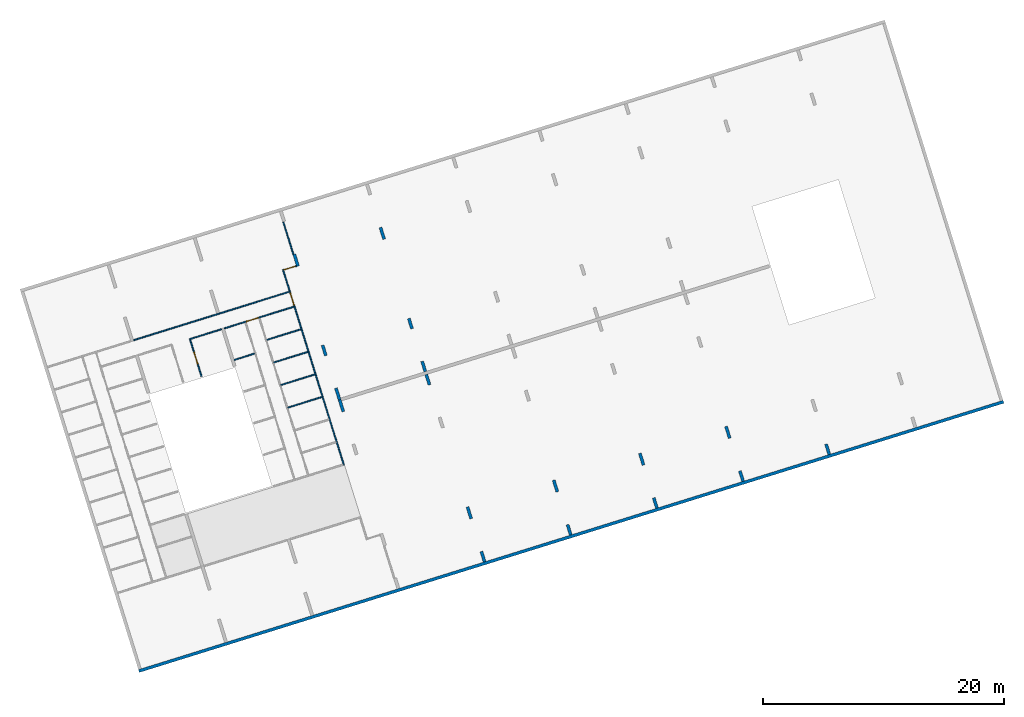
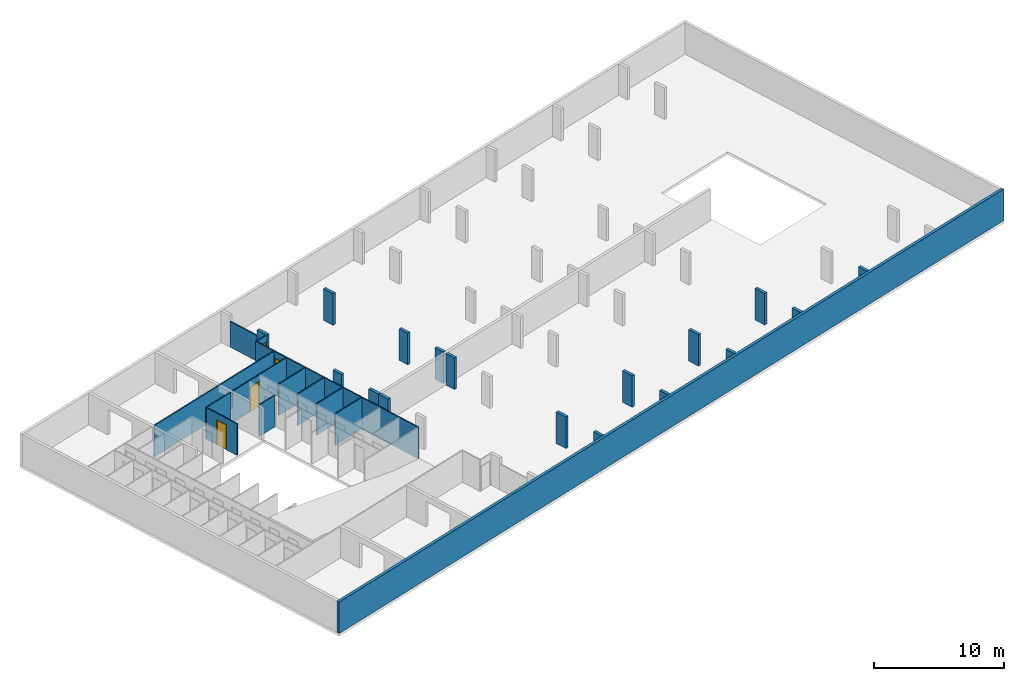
# One storey, part 2 of 7: 30 walls, 4 doors, 6 openings.
"""IFC4 building model written with IfcOpenShell, lengths in metres."""

from ifc_helpers import new_model, entity, si_unit, converted_unit, direction, frame, origin, place, context, subcontext, project, spatial, indexed_curve, outline, extrude, polygons, source, transform, mapped, material, constituent, constituent_set, type_object, type_shapes, element, fill, save


model = new_model("IFC4")

# Units and contexts
model_context = context("Model", 3, precision=1e-05, world=origin(), true_north=direction((6.12323399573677e-17, 1.0)))
body_context = subcontext(model_context, "Body", "Model", "MODEL_VIEW")
ifc_project = project(units=[si_unit("LENGTHUNIT", "METRE"), si_unit("AREAUNIT", "SQUARE_METRE"), si_unit("VOLUMEUNIT", "CUBIC_METRE"), converted_unit("PLANEANGLEUNIT", "DEGREE", entity("IfcPlaneAngleMeasure", 0.0174532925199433), si_unit("PLANEANGLEUNIT", "RADIAN"), dimensions=[0, 0, 0, 0, 0, 0, 0])], contexts=[model_context])

# Site, building, storey
site_placement = place(None, frame((13.1347999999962, 11.9886000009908, 0.0), z_axis=(0.0, 0.0, 1.0), x_axis=(0.954770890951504, 0.297342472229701, 0.0)))
site = spatial("IfcSite", under=ifc_project, at=site_placement, Name="Schiehaven", CompositionType="ELEMENT")
building_placement = place(site_placement, origin())
building = spatial("IfcBuilding", under=site, at=building_placement, Name="VORM huis", CompositionType="ELEMENT")
storey_placement = place(building_placement, frame((0.0, 0.0, -3.2)))
storey = spatial("IfcBuildingStorey", under=building, at=storey_placement, Name="-1 kelder", CompositionType="ELEMENT", Elevation=-3.2)

# Walls
ifc_material_1 = material(Name="beton_gewapend_ihw", Category="Miscellaneous")
wall_type_1 = type_object("IfcWallType", Name="Basic Wall:28_WA_skelet_keerwand 250mm_gen", PredefinedType="STANDARD")
wall_1_placement = place(storey_placement, frame((80.1250000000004, 0.499999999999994, 0.0), z_axis=(0.0, 0.0, 1.0), x_axis=(-1.0, 0.0, 0.0)))
element("IfcWall", 1, at=wall_1_placement, inside=storey, type_object=wall_type_1, material=ifc_material_1, Name="Constructieve keerwand", ObjectType="Wand", PredefinedType="NOTDEFINED", context=body_context, shape_type="SweptSolid", body=[
    extrude(outline(indexed_curve([(75.2500000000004, 0.125), (0.0, 0.125), (0.0, -0.125), (75.2500000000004, -0.125), (75.2500000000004, 0.125)], self_intersect=False)), origin(), (0.0, 0.0, 1.0), 2.95),
])
wall_type_2 = type_object("IfcWallType", Name="Basic Wall:28_WA_skelet_wand 250mm_gen", PredefinedType="STANDARD")
wall_2_placement = place(storey_placement, frame((35.0, 16.0249999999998, 0.0), z_axis=(0.0, 0.0, 1.0), x_axis=(0.0, 1.0, 0.0)))
element("IfcWall", 2, at=wall_2_placement, inside=storey, type_object=wall_type_2, material=ifc_material_1, Name="Constructieve wand", ObjectType="Wand", PredefinedType="NOTDEFINED", context=body_context, shape_type="SweptSolid", body=[
    extrude(outline(indexed_curve([(0.900000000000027, 0.125000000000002), (0.0, 0.125000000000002), (0.0, -0.125000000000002), (0.900000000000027, -0.125000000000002), (0.900000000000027, 0.125000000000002)], self_intersect=False)), origin(), (0.0, 0.0, 1.0), 2.95),
])
wall_3_placement = place(storey_placement, frame((35.0, 4.37499999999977, 0.0), z_axis=(0.0, 0.0, 1.0), x_axis=(0.0, 1.0, 0.0)))
element("IfcWall", 3, at=wall_3_placement, inside=storey, type_object=wall_type_2, material=ifc_material_1, Name="Constructieve wand", ObjectType="Wand", PredefinedType="NOTDEFINED", context=body_context, shape_type="SweptSolid", body=[
    extrude(outline(indexed_curve([(1.02499999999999, 0.125000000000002), (0.0, 0.125000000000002), (0.0, -0.125000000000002), (1.02499999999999, -0.125000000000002), (1.02499999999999, 0.125000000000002)], self_intersect=False)), origin(), (0.0, 0.0, 1.0), 2.95),
])
for number, where, z_axis, x_axis, name in (
    (4, (42.5, 4.37499999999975, 0.0), (0.0, 0.0, 1.0), (0.0, 1.0, 0.0), "Constructieve wand"),
    (5, (50.0, 4.37499999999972, 0.0), (0.0, 0.0, 1.0), (0.0, 1.0, 0.0), "Constructieve wand"),
):
    element("IfcWall", number, at=place(storey_placement, frame(where, z_axis=z_axis, x_axis=x_axis)), inside=storey, type_object=wall_type_2, material=ifc_material_1, Name=name, ObjectType="Wand", PredefinedType="NOTDEFINED", context=body_context, shape_type="SweptSolid", body=[
        extrude(outline(indexed_curve([(1.02499999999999, 0.124999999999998), (0.0, 0.124999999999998), (0.0, -0.124999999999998), (1.02499999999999, -0.124999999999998), (1.02499999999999, 0.124999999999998)], self_intersect=False)), origin(), (0.0, 0.0, 1.0), 2.95),
    ])
wall_4_placement = place(storey_placement, frame((57.5, 4.3749999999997, 0.0), z_axis=(0.0, 0.0, 1.0), x_axis=(0.0, 1.0, 0.0)))
element("IfcWall", 6, at=wall_4_placement, inside=storey, type_object=wall_type_2, material=ifc_material_1, Name="Constructieve wand", ObjectType="Wand", PredefinedType="NOTDEFINED", context=body_context, shape_type="SweptSolid", body=[
    extrude(outline(indexed_curve([(1.025, 0.124999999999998), (0.0, 0.124999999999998), (0.0, -0.124999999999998), (1.025, -0.124999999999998), (1.025, 0.124999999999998)], self_intersect=False)), origin(), (0.0, 0.0, 1.0), 2.95),
])
wall_5_placement = place(storey_placement, frame((35.0, 1.52499999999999, 0.0), z_axis=(0.0, 0.0, 1.0), x_axis=(0.0, -1.0, 0.0)))
element("IfcWall", 7, at=wall_5_placement, inside=storey, type_object=wall_type_2, material=ifc_material_1, Name="Constructieve wand", ObjectType="Wand", PredefinedType="NOTDEFINED", context=body_context, shape_type="SweptSolid", body=[
    extrude(outline(indexed_curve([(0.9, 0.125000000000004), (2.39074561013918e-16, 0.125000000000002), (-2.39074561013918e-16, -0.125000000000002), (0.9, -0.125), (0.9, 0.125000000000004)], self_intersect=False)), origin(), (0.0, 0.0, 1.0), 2.95),
])
wall_6_placement = place(storey_placement, frame((42.5, 1.52499999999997, 0.0), z_axis=(0.0, 0.0, 1.0), x_axis=(0.0, -1.0, 0.0)))
element("IfcWall", 8, at=wall_6_placement, inside=storey, type_object=wall_type_2, material=ifc_material_1, Name="Constructieve wand", ObjectType="Wand", PredefinedType="NOTDEFINED", context=body_context, shape_type="SweptSolid", body=[
    extrude(outline(indexed_curve([(0.899999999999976, 0.124999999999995), (2.39074561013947e-16, 0.124999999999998), (-2.39074561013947e-16, -0.124999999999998), (0.899999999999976, -0.125), (0.899999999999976, 0.124999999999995)], self_intersect=False)), origin(), (0.0, 0.0, 1.0), 2.95),
])
wall_7_placement = place(storey_placement, frame((50.0, 1.52499999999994, 0.0), z_axis=(0.0, 0.0, 1.0), x_axis=(0.0, -1.0, 0.0)))
element("IfcWall", 9, at=wall_7_placement, inside=storey, type_object=wall_type_2, material=ifc_material_1, Name="Constructieve wand", ObjectType="Wand", PredefinedType="NOTDEFINED", context=body_context, shape_type="SweptSolid", body=[
    extrude(outline(indexed_curve([(0.899999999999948, 0.124999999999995), (2.39074561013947e-16, 0.124999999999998), (-2.39074561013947e-16, -0.124999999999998), (0.899999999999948, -0.125), (0.899999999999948, 0.124999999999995)], self_intersect=False)), origin(), (0.0, 0.0, 1.0), 2.95),
])
wall_8_placement = place(storey_placement, frame((57.4999999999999, 1.52499999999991, 0.0), z_axis=(0.0, 0.0, 1.0), x_axis=(0.0, -1.0, 0.0)))
element("IfcWall", 10, at=wall_8_placement, inside=storey, type_object=wall_type_2, material=ifc_material_1, Name="Constructieve wand", ObjectType="Wand", PredefinedType="NOTDEFINED", context=body_context, shape_type="SweptSolid", body=[
    extrude(outline(indexed_curve([(0.89999999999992, 0.124999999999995), (2.39074561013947e-16, 0.124999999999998), (-2.39074561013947e-16, -0.124999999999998), (0.89999999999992, -0.125), (0.89999999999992, 0.124999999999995)], self_intersect=False)), origin(), (0.0, 0.0, 1.0), 2.95),
])
wall_9_placement = place(storey_placement, frame((65.0, 1.52499999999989, 0.0), z_axis=(0.0, 0.0, 1.0), x_axis=(0.0, -1.0, 0.0)))
element("IfcWall", 11, at=wall_9_placement, inside=storey, type_object=wall_type_2, material=ifc_material_1, Name="Constructieve wand", ObjectType="Wand", PredefinedType="NOTDEFINED", context=body_context, shape_type="SweptSolid", body=[
    extrude(outline(indexed_curve([(0.899999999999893, 0.124999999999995), (2.39074561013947e-16, 0.124999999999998), (-2.39074561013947e-16, -0.124999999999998), (0.899999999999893, -0.125), (0.899999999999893, 0.124999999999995)], self_intersect=False)), origin(), (0.0, 0.0, 1.0), 2.95),
])
wall_10_placement = place(storey_placement, frame((27.5000000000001, 16.0249999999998, 0.0), z_axis=(0.0, 0.0, 1.0), x_axis=(0.0, 1.0, 0.0)))
element("IfcWall", 12, at=wall_10_placement, inside=storey, type_object=wall_type_2, material=ifc_material_1, Name="Constructieve wand", ObjectType="Wand", PredefinedType="NOTDEFINED", context=body_context, shape_type="SweptSolid", body=[
    extrude(outline(indexed_curve([(1.02500000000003, 0.125000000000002), (0.0, 0.125000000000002), (0.0, -0.125000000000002), (1.02500000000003, -0.125000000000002), (1.02500000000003, 0.125000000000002)], self_intersect=False)), origin(), (0.0, 0.0, 1.0), 2.95),
])
wall_11_placement = place(storey_placement, frame((35.0, 21.8050000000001, 0.0), z_axis=(0.0, 0.0, 1.0), x_axis=(0.0, -1.0, 0.0)))
element("IfcWall", 13, at=wall_11_placement, inside=storey, type_object=wall_type_2, material=ifc_material_1, Name="Constructieve wand", ObjectType="Wand", PredefinedType="NOTDEFINED", context=body_context, shape_type="SweptSolid", body=[
    extrude(outline(indexed_curve([(0.900000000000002, 0.124999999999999), (-8.09239413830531e-16, 0.125000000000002), (8.09239413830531e-16, -0.125000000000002), (0.900000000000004, -0.125000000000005), (0.900000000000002, 0.124999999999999)], self_intersect=False)), origin(), (0.0, 0.0, 1.0), 2.95),
])
wall_12_placement = place(storey_placement, frame((35.0, 18.0750000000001, 0.0), z_axis=(0.0, 0.0, 1.0), x_axis=(0.0, -1.0, 0.0)))
element("IfcWall", 14, at=wall_12_placement, inside=storey, type_object=wall_type_2, material=ifc_material_1, Name="Constructieve wand", ObjectType="Wand", PredefinedType="NOTDEFINED", context=body_context, shape_type="SweptSolid", body=[
    extrude(outline(indexed_curve([(0.900000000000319, 0.124999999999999), (-8.09239413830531e-16, 0.125000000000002), (8.09239413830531e-16, -0.125000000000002), (0.90000000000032, -0.125000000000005), (0.900000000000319, 0.124999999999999)], self_intersect=False)), origin(), (0.0, 0.0, 1.0), 2.95),
])
wall_13_placement = place(storey_placement, frame((35.0, 29.7250000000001, 0.0), z_axis=(0.0, 0.0, 1.0), x_axis=(0.0, -1.0, 0.0)))
element("IfcWall", 15, at=wall_13_placement, inside=storey, type_object=wall_type_2, material=ifc_material_1, Name="Constructieve wand", ObjectType="Wand", PredefinedType="NOTDEFINED", context=body_context, shape_type="SweptSolid", body=[
    extrude(outline(indexed_curve([(1.025, 0.125), (-8.09239413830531e-16, 0.125000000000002), (8.09239413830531e-16, -0.125000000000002), (1.025, -0.125000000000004), (1.025, 0.125)], self_intersect=False)), origin(), (0.0, 0.0, 1.0), 2.95),
])
wall_14_placement = place(storey_placement, frame((27.5000000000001, 21.8050000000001, 0.0), z_axis=(0.0, 0.0, 1.0), x_axis=(0.0, -1.0, 0.0)))
element("IfcWall", 16, at=wall_14_placement, inside=storey, type_object=wall_type_2, material=ifc_material_1, Name="Constructieve wand", ObjectType="Wand", PredefinedType="NOTDEFINED", context=body_context, shape_type="SweptSolid", body=[
    extrude(outline(indexed_curve([(0.899999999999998, 0.124999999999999), (-8.09239413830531e-16, 0.125000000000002), (8.09239413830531e-16, -0.125000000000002), (0.9, -0.125000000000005), (0.899999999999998, 0.124999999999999)], self_intersect=False)), origin(), (0.0, 0.0, 1.0), 2.95),
])
wall_15_placement = place(storey_placement, frame((27.5000000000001, 18.0750000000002, 0.0), z_axis=(0.0, 0.0, 1.0), x_axis=(0.0, -1.0, 0.0)))
element("IfcWall", 17, at=wall_15_placement, inside=storey, type_object=wall_type_2, material=ifc_material_1, Name="Constructieve wand", ObjectType="Wand", PredefinedType="NOTDEFINED", context=body_context, shape_type="SweptSolid", body=[
    extrude(outline(indexed_curve([(1.02500000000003, 0.125), (-8.09239413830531e-16, 0.125000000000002), (8.09239413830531e-16, -0.125000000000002), (1.02500000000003, -0.125000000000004), (1.02500000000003, 0.125)], self_intersect=False)), origin(), (0.0, 0.0, 1.0), 2.95),
])
wall_16_placement = place(storey_placement, frame((27.5000000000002, 29.7250000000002, 0.0), z_axis=(0.0, 0.0, 1.0), x_axis=(0.0, -1.0, 0.0)))
element("IfcWall", 18, at=wall_16_placement, inside=storey, type_object=wall_type_2, material=ifc_material_1, Name="Constructieve wand", ObjectType="Wand", PredefinedType="NOTDEFINED", context=body_context, shape_type="SweptSolid", body=[
    extrude(outline(indexed_curve([(1.025, 0.125), (-8.09239413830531e-16, 0.125000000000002), (8.09239413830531e-16, -0.125000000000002), (1.025, -0.125000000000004), (1.025, 0.125)], self_intersect=False)), origin(), (0.0, 0.0, 1.0), 2.95),
])

# Wall, openings, door
ifc_material_2 = material(Name="ntb_ntb_ntb", Category="Miscellaneous")
wall_type_3 = type_object("IfcWallType", Name="Basic Wall:22_WA_afbouw_binnenwand 100mm_gen", PredefinedType="STANDARD")
wall_17_placement = place(storey_placement, frame((26.2250000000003, 28.8000000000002, 0.0), z_axis=(0.0, 0.0, 1.0), x_axis=(0.0, -1.0, 0.0)))
wall_17 = element("IfcWall", 19, at=wall_17_placement, inside=storey, type_object=wall_type_3, material=ifc_material_2, Name="Binnenwand", ObjectType="Wand", PredefinedType="NOTDEFINED", context=body_context, shape_type="Tessellation", body=[
    polygons([(0.0, -0.0499999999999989, 0.0), (1.87500000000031, -0.05, 0.0), (1.9750000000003, -0.0499999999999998, 0.0), (2.0500000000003, -0.0499999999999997, 0.0), (2.0500000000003, -0.0499999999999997, 2.34999999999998), (3.1000000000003, -0.0499999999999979, 2.34999999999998), (3.1000000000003, -0.0499999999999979, 0.0), (3.1750000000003, -0.0499999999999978, 0.0), (3.2750000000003, -0.0500000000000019, 0.0), (5.139285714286, -0.0499999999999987, 0.0), (5.239285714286, -0.0499999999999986, 0.0), (7.1035714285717, -0.0499999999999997, 0.0), (7.2035714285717, -0.0499999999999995, 0.0), (9.0678571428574, -0.0500000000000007, 0.0), (9.1678571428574, -0.0500000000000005, 0.0), (11.0321428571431, -0.0500000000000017, 0.0), (11.1321428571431, -0.0500000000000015, 0.0), (12.9964285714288, -0.0499999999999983, 0.0), (13.0964285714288, -0.0499999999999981, 0.0), (14.9607142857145, -0.0499999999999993, 0.0), (15.0607142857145, -0.0499999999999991, 0.0), (16.9250000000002, -0.0500000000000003, 0.0), (17.0250000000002, -0.0500000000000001, 0.0), (17.0250000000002, -0.0500000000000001, 2.95), (16.9250000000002, -0.0500000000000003, 2.95), (15.0607142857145, -0.0499999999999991, 2.95), (14.9607142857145, -0.0499999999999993, 2.95), (13.0964285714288, -0.0499999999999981, 2.95), (12.9964285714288, -0.0499999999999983, 2.95), (11.1321428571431, -0.0500000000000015, 2.95), (11.0321428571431, -0.0500000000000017, 2.95), (9.1678571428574, -0.0500000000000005, 2.95), (9.0678571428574, -0.0500000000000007, 2.95), (7.2035714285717, -0.0499999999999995, 2.95), (7.1035714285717, -0.0499999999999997, 2.95), (5.239285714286, -0.0499999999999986, 2.95), (5.139285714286, -0.0499999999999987, 2.95), (3.2750000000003, -0.0500000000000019, 2.95), (3.1750000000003, -0.0499999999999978, 2.95), (1.9750000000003, -0.0499999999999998, 2.95), (1.87500000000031, -0.05, 2.95), (0.0, -0.0499999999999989, 2.95), (2.0500000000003, 0.0499999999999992, 2.34999999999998), (2.0500000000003, 0.0499999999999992, 0.0), (0.0, 0.0500000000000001, 0.0), (0.0, 0.0500000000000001, 2.34999999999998), (0.0, 0.0500000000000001, 2.95), (0.0999999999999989, 0.0500000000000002, 2.95), (17.0250000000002, 0.0500000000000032, 2.95), (17.0250000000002, 0.0500000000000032, 0.0), (3.1000000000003, 0.050000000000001, 0.0), (3.1000000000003, 0.050000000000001, 2.34999999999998)], [[[1, 2, 3, 4, 5, 6, 7, 8, 9, 10, 11, 12, 13, 14, 15, 16, 17, 18, 19, 20, 21, 22, 23, 24, 25, 26, 27, 28, 29, 30, 31, 32, 33, 34, 35, 36, 37, 38, 39, 40, 41, 42]], [[43, 44, 45, 46, 47, 48, 49, 50, 51, 52]], [[45, 44, 4, 3, 2, 1]], [[42, 41, 40, 39, 38, 37, 36, 35, 34, 33, 32, 31, 30, 29, 28, 27, 26, 25, 24, 49, 48, 47]], [[24, 23, 50, 49]], [[7, 6, 52, 51]], [[5, 4, 44, 43]], [[6, 5, 43, 52]], [[1, 42, 47, 46, 45]], [[51, 50, 23, 22, 21, 20, 19, 18, 17, 16, 15, 14, 13, 12, 11, 10, 9, 8, 7]]], closed=True),
])
opening_1_placement = place(wall_17_placement, origin())
element("IfcOpeningElement", 20, at=opening_1_placement, cuts=wall_17, Name="Vluchtdeur", PredefinedType="OPENING", context=body_context, shape_type="SweptSolid", body=[
    extrude(outline(indexed_curve([(-0.0500000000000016, -1.17499999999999), (0.0499999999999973, -1.17499999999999), (0.0499999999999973, 1.17499999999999), (-0.0500000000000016, 1.17499999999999), (-0.0500000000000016, -1.17499999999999)], self_intersect=False)), frame((0.0499999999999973, 0.0500000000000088, 1.17499999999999), z_axis=(0.0, 1.0, 0.0), x_axis=(-1.0, 0.0, 0.0)), (0.0, 0.0, 1.0), 1.05),
])
opening_2_placement = place(wall_17_placement, frame((3.1000000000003, 0.0500000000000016, 0.0)))
opening_2 = element("IfcOpeningElement", 21, at=opening_2_placement, cuts=wall_17, Name="Vluchtdeur", PredefinedType="OPENING", context=body_context, shape_type="SweptSolid", body=[
    extrude(outline(indexed_curve([(2.34999999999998, 0.0), (2.34999999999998, 1.05), (0.0, 1.05), (0.0, 0.0), (2.34999999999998, 0.0)], self_intersect=False)), frame((0.0, 0.0, 0.0), z_axis=(0.0, -1.0, 0.0), x_axis=(0.0, 0.0, 1.0)), (0.0, 0.0, 1.0), 0.1),
])
ifc_material_3 = material(Name="PD_a_binnenwandopeningen", Category="Miscellaneous")
ifc_constituent_1 = constituent(ifc_material_3, Name="PD_a_binnenwandopeningen", Category="Miscellaneous")
ifc_material_4 = material(Name="metaal_aluminium_ntb", Category="Miscellaneous")
ifc_constituent_2 = constituent(ifc_material_4, Name="metaal_aluminium_ntb", Category="Miscellaneous")
ifc_constituent_set_1 = constituent_set(constituents=[ifc_constituent_1, ifc_constituent_2])
door_type = type_object("IfcDoorType", Name="32_DO_binnendeur enkel:binnendeur zelfsluitend 30min", OperationType="NOTDEFINED", PredefinedType="DOOR")
shared_shape_1 = source(origin(), body_context, "Body", "SweptSolid", [
    extrude(outline(indexed_curve([(0.475, -1.16249999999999), (0.525, -1.16249999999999), (0.525, 1.18749999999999), (-0.525, 1.18749999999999), (-0.525, -1.16249999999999), (-0.475, -1.16249999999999), (-0.475, 1.13749999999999), (0.475, 1.13749999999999), (0.475, -1.16249999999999)], self_intersect=False)), frame((0.525000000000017, 0.100000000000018, 1.16249999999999), z_axis=(0.0, -1.0, 0.0), x_axis=(1.0, 0.0, 0.0)), (0.0, 0.0, 1.0), 0.1),
    extrude(outline(indexed_curve([(-0.475, -0.025), (0.475, -0.025), (0.475, 0.025), (-0.475, 0.025), (-0.475, -0.025)], self_intersect=False)), frame((0.525000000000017, 0.0499999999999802, 0.0)), (0.0, 0.0, 1.0), 2.29999999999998),
])
door_1_placement = place(opening_2_placement, frame((0.0, 0.0, 0.0), z_axis=(0.0, 0.0, 1.0), x_axis=(-1.0, 0.0, 0.0)))
door_1 = element("IfcDoor", 22, at=door_1_placement, inside=storey, type_object=door_type, material=ifc_constituent_set_1, Name="Vluchtdeur", ObjectType="Deur", OperationType="NOTDEFINED", OverallHeight=2.34999999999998, OverallWidth=1.05, PredefinedType="DOOR", context=body_context, shape_type="MappedRepresentation", body=[
    mapped(shared_shape_1, transform((0.0, 0.0, 0.0), scale=1.0)),
])
fill(opening_2, door_1)

# Wall
wall_18_placement = place(storey_placement, frame((26.1750000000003, 26.8749999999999, 0.0), z_axis=(0.0, 0.0, 1.0), x_axis=(-1.0, 0.0, 0.0)))
element("IfcWall", 23, at=wall_18_placement, inside=storey, type_object=wall_type_3, material=ifc_material_2, Name="Binnenwand", ObjectType="Wand", PredefinedType="NOTDEFINED", context=body_context, shape_type="SweptSolid", body=[
    extrude(outline(indexed_curve([(13.5500000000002, 0.0500000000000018), (-1.60577808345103e-16, 0.0500000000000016), (1.60577808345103e-16, -0.0500000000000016), (13.5500000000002, -0.0500000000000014), (13.5500000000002, 0.0500000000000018)], self_intersect=False)), origin(), (0.0, 0.0, 1.0), 2.95),
])

# Wall, opening, door
wall_19_placement = place(storey_placement, frame((26.1750000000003, 25.5749999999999, 0.0), z_axis=(0.0, 0.0, 1.0), x_axis=(-1.0, 0.0, 0.0)))
wall_19 = element("IfcWall", 24, at=wall_19_placement, inside=storey, type_object=wall_type_3, material=ifc_material_2, Name="Binnenwand", ObjectType="Wand", PredefinedType="NOTDEFINED", context=body_context, shape_type="Tessellation", body=[
    polygons([(4.1500000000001, -0.0499999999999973, 2.34999999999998), (4.15000000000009, -0.0499999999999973, 0.0), (6.05000000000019, -0.0499999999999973, 0.0), (6.05000000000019, -0.0499999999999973, 2.95), (2.3054590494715e-15, -0.0499999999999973, 2.95), (2.3054590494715e-15, -0.0499999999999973, 0.0), (3.10000000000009, -0.0499999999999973, 0.0), (3.10000000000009, -0.0499999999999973, 2.34999999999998), (6.05000000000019, 0.0500000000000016, 0.0), (4.2750000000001, 0.0500000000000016, 0.0), (4.1750000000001, 0.0500000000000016, 0.0), (4.15000000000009, 0.0500000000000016, 0.0), (4.1500000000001, 0.0500000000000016, 2.34999999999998), (3.10000000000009, 0.0500000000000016, 2.34999999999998), (3.10000000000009, 0.0500000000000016, 0.0), (3.0750000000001, 0.0500000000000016, 0.0), (2.9750000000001, 0.0500000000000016, 0.0), (2.02600946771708e-15, 0.0500000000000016, 0.0), (2.02600946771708e-15, 0.0500000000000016, 2.95), (2.9750000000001, 0.0500000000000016, 2.95), (3.0750000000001, 0.0500000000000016, 2.95), (4.1750000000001, 0.0500000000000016, 2.95), (4.2750000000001, 0.0500000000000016, 2.95), (6.05000000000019, 0.0500000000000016, 2.95)], [[[1, 2, 3, 4, 5, 6, 7, 8]], [[9, 10, 11, 12, 13, 14, 15, 16, 17, 18, 19, 20, 21, 22, 23, 24]], [[7, 6, 18, 17, 16, 15]], [[4, 3, 9, 24]], [[5, 4, 24, 23, 22, 21, 20, 19]], [[6, 5, 19, 18]], [[15, 14, 8, 7]], [[13, 12, 2, 1]], [[14, 13, 1, 8]], [[3, 2, 12, 11, 10, 9]]], closed=True),
])
opening_3_placement = place(wall_19_placement, frame((4.1500000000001, 0.049999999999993, 0.0)))
opening_3 = element("IfcOpeningElement", 25, at=opening_3_placement, cuts=wall_19, Name="Vluchtdeur", PredefinedType="OPENING", context=body_context, shape_type="SweptSolid", body=[
    extrude(outline(indexed_curve([(2.34999999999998, 1.05), (0.0, 1.05), (0.0, 0.0), (2.34999999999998, 0.0), (2.34999999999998, 1.05)], self_intersect=False)), frame((0.0, 0.0, 0.0), z_axis=(0.0, -1.0, 0.0), x_axis=(0.0, 0.0, 1.0)), (0.0, 0.0, 1.0), 0.1),
])
ifc_constituent_3 = constituent(ifc_material_3, Name="PD_a_binnenwandopeningen", Category="Miscellaneous")
ifc_constituent_4 = constituent(ifc_material_4, Name="metaal_aluminium_ntb", Category="Miscellaneous")
ifc_constituent_set_2 = constituent_set(constituents=[ifc_constituent_3, ifc_constituent_4])
shared_shape_2 = source(origin(), body_context, "Body", "SweptSolid", [
    extrude(outline(indexed_curve([(-1.16249999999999, -0.525000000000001), (1.18749999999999, -0.525), (1.18749999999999, 0.525), (-1.16249999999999, 0.525), (-1.16249999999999, 0.475), (1.13749999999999, 0.475), (1.13749999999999, -0.475), (-1.16249999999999, -0.475), (-1.16249999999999, -0.525000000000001)], self_intersect=False)), frame((0.525000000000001, 0.0, 1.16249999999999), z_axis=(0.0, 1.0, 0.0), x_axis=(0.0, 0.0, 1.0)), (0.0, 0.0, 1.0), 0.1),
    extrude(outline(indexed_curve([(-0.025, -0.475), (0.025, -0.475), (0.025, 0.475), (-0.025, 0.475), (-0.025, -0.475)], self_intersect=False)), frame((0.525000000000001, 0.0499999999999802, 0.0), z_axis=(0.0, 0.0, 1.0), x_axis=(0.0, 1.0, 0.0)), (0.0, 0.0, 1.0), 2.29999999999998),
])
type_shapes(door_type, [shared_shape_2])
door_2_placement = place(opening_3_placement, frame((0.0, 0.0, 0.0), z_axis=(0.0, 0.0, 1.0), x_axis=(-1.0, 0.0, 0.0)))
door_2 = element("IfcDoor", 26, at=door_2_placement, inside=storey, type_object=door_type, material=ifc_constituent_set_2, Name="Vluchtdeur", ObjectType="Deur", OperationType="NOTDEFINED", OverallHeight=2.34999999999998, OverallWidth=1.05, PredefinedType="DOOR", context=body_context, shape_type="MappedRepresentation", body=[
    mapped(shared_shape_2, transform((0.0, 0.0, 0.0), scale=1.0)),
])
fill(opening_3, door_2)

wall_20_placement = place(storey_placement, frame((17.1250000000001, 25.5249999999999, 0.0), z_axis=(0.0, 0.0, 1.0), x_axis=(0.0, -1.0, 0.0)))
wall_20 = element("IfcWall", 27, at=wall_20_placement, inside=storey, type_object=wall_type_3, material=ifc_material_2, Name="Binnenwand", ObjectType="Wand", PredefinedType="NOTDEFINED", context=body_context, shape_type="Tessellation", body=[
    polygons([(0.0, -0.0500000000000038, 0.0), (1.07499999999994, -0.0500000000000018, 0.0), (1.07499999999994, -0.0500000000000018, 2.34999999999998), (2.12499999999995, -0.050000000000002, 2.34999999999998), (2.12499999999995, -0.050000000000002, 0.0), (3.1999999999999, -0.0500000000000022, 0.0), (3.1999999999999, -0.0500000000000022, 2.95), (0.0, -0.0500000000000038, 2.95), (1.07499999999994, 0.0499999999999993, 2.34999999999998), (1.07499999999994, 0.0499999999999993, 0.0), (0.0, 0.0499999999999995, 0.0), (0.0, 0.0499999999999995, 2.95), (3.1999999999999, 0.0499999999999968, 2.95), (3.1999999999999, 0.0499999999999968, 0.0), (2.12499999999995, 0.0499999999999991, 0.0), (2.12499999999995, 0.0499999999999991, 2.34999999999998)], [[[1, 2, 3, 4, 5, 6, 7, 8]], [[9, 10, 11, 12, 13, 14, 15, 16]], [[11, 10, 2, 1]], [[7, 6, 14, 13]], [[8, 7, 13, 12]], [[1, 8, 12, 11]], [[5, 4, 16, 15]], [[3, 2, 10, 9]], [[4, 3, 9, 16]], [[15, 14, 6, 5]]], closed=True),
])
opening_4_placement = place(wall_20_placement, frame((2.12499999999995, 0.0499999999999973, 0.0)))
opening_4 = element("IfcOpeningElement", 28, at=opening_4_placement, cuts=wall_20, Name="Vluchtdeur", PredefinedType="OPENING", context=body_context, shape_type="SweptSolid", body=[
    extrude(outline(indexed_curve([(2.34999999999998, 0.0), (2.34999999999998, 1.05), (0.0, 1.05), (0.0, 0.0), (2.34999999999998, 0.0)], self_intersect=False)), frame((0.0, 0.0, 0.0), z_axis=(0.0, -1.0, 0.0), x_axis=(0.0, 0.0, 1.0)), (0.0, 0.0, 1.0), 0.1),
])
ifc_constituent_5 = constituent(ifc_material_3, Name="PD_a_binnenwandopeningen", Category="Miscellaneous")
ifc_constituent_6 = constituent(ifc_material_4, Name="metaal_aluminium_ntb", Category="Miscellaneous")
ifc_constituent_set_3 = constituent_set(constituents=[ifc_constituent_5, ifc_constituent_6])
door_3_placement = place(opening_4_placement, frame((0.0, 0.0, 0.0), z_axis=(0.0, 0.0, 1.0), x_axis=(-1.0, 0.0, 0.0)))
door_3 = element("IfcDoor", 29, at=door_3_placement, inside=storey, type_object=door_type, material=ifc_constituent_set_3, Name="Vluchtdeur", ObjectType="Deur", OperationType="NOTDEFINED", OverallHeight=2.34999999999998, OverallWidth=1.05, PredefinedType="DOOR", context=body_context, shape_type="MappedRepresentation", body=[
    mapped(shared_shape_1, transform((0.0, 0.0, 0.0), scale=1.0)),
])
fill(opening_4, door_3)

# Walls
wall_21_placement = place(storey_placement, frame((19.8750000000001, 25.5749999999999, 0.0), z_axis=(0.0, 0.0, 1.0), x_axis=(-1.0, 0.0, 0.0)))
element("IfcWall", 30, at=wall_21_placement, inside=storey, type_object=wall_type_3, material=ifc_material_2, Name="Binnenwand", ObjectType="Wand", PredefinedType="NOTDEFINED", context=body_context, shape_type="SweptSolid", body=[
    extrude(outline(indexed_curve([(2.80000000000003, 0.0500000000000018), (-1.5750794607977e-16, 0.0500000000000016), (1.5750794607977e-16, -0.0500000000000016), (2.80000000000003, -0.0500000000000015), (2.80000000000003, 0.0500000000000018)], self_intersect=False)), origin(), (0.0, 0.0, 1.0), 2.95),
])
wall_22_placement = place(storey_placement, frame((23.2000000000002, 17.7178571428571, 0.0)))
element("IfcWall", 31, at=wall_22_placement, inside=storey, type_object=wall_type_3, material=ifc_material_2, Name="Binnenwand", ObjectType="Wand", PredefinedType="NOTDEFINED", context=body_context, shape_type="SweptSolid", body=[
    extrude(outline(indexed_curve([(2.97500000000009, 0.0499999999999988), (-1.71543307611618e-16, 0.0499999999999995), (1.71543307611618e-16, -0.0499999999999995), (2.97500000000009, -0.0500000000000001), (2.97500000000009, 0.0499999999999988)], self_intersect=False)), origin(), (0.0, 0.0, 1.0), 2.95),
])
for number, where in (
    (32, (23.2000000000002, 21.6464285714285, 0.0)),
    (33, (23.2000000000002, 23.6107142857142, 0.0)),
    (34, (23.2000000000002, 19.6821428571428, 0.0)),
):
    element("IfcWall", number, at=place(storey_placement, frame(where)), inside=storey, type_object=wall_type_3, material=ifc_material_2, Name="Binnenwand", ObjectType="Wand", PredefinedType="NOTDEFINED", context=body_context, shape_type="SweptSolid", body=[
        extrude(outline(indexed_curve([(2.97500000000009, 0.0500000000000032), (-1.71543307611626e-16, 0.0500000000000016), (1.71543307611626e-16, -0.0500000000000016), (2.97500000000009, -0.0500000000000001), (2.97500000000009, 0.0500000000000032)], self_intersect=False)), origin(), (0.0, 0.0, 1.0), 2.95),
    ])
wall_23_placement = place(storey_placement, frame((21.9000000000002, 22.8249999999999, 0.0), z_axis=(0.0, 0.0, 1.0), x_axis=(-1.0, 0.0, 0.0)))
element("IfcWall", 35, at=wall_23_placement, inside=storey, type_object=wall_type_3, material=ifc_material_2, Name="Binnenwand", ObjectType="Wand", PredefinedType="NOTDEFINED", context=body_context, shape_type="SweptSolid", body=[
    extrude(outline(indexed_curve([(1.77500000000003, 0.0499999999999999), (1.71543307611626e-16, 0.0500000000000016), (-1.71543307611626e-16, -0.0500000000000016), (1.77500000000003, -0.0500000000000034), (1.77500000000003, 0.0499999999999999)], self_intersect=False)), origin(), (0.0, 0.0, 1.0), 2.95),
])

# Wall, openings, door
wall_24_placement = place(storey_placement, frame((26.2750000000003, 28.7500000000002, 0.0)))
wall_24 = element("IfcWall", 36, at=wall_24_placement, inside=storey, type_object=wall_type_3, material=ifc_material_2, Name="Binnenwand", ObjectType="Wand", PredefinedType="NOTDEFINED", context=body_context, shape_type="Tessellation", body=[
    polygons([(1.09999999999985, -0.0499999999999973, 0.0), (1.09999999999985, -0.0499999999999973, 2.95), (0.0, -0.0499999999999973, 2.95), (0.0, -0.0499999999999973, 2.34999999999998), (1.05000000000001, -0.0499999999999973, 2.34999999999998), (1.05000000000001, -0.0499999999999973, 0.0), (1.09999999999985, 0.0500000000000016, 2.95), (1.09999999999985, 0.0500000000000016, 0.0), (1.05000000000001, 0.0500000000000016, 0.0), (1.05000000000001, 0.0500000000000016, 2.34999999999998), (0.0, 0.0500000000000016, 2.34999999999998), (0.0, 0.0500000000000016, 2.95)], [[[1, 2, 3, 4, 5, 6]], [[7, 8, 9, 10, 11, 12]], [[8, 1, 6, 9]], [[2, 1, 8, 7]], [[3, 2, 7, 12]], [[5, 10, 9, 6]], [[10, 5, 4, 11]], [[3, 12, 11, 4]]], closed=True),
])
opening_5_placement = place(wall_24_placement, frame((1.05000000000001, 0.0500000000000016, 0.0)))
opening_5 = element("IfcOpeningElement", 37, at=opening_5_placement, cuts=wall_24, Name="Vluchtdeur", PredefinedType="OPENING", context=body_context, shape_type="SweptSolid", body=[
    extrude(outline(indexed_curve([(2.34999999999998, 1.05), (0.0, 1.05), (0.0, 0.0), (2.34999999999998, 0.0), (2.34999999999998, 1.05)], self_intersect=False)), frame((0.0, 0.0, 0.0), z_axis=(0.0, -1.0, 0.0), x_axis=(0.0, 0.0, 1.0)), (0.0, 0.0, 1.0), 0.1),
])
opening_6_placement = place(wall_24_placement, frame((-26.2750000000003, -28.7500000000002, 0.0)))
element("IfcOpeningElement", 38, at=opening_6_placement, cuts=wall_24, Name="Vluchtdeur", PredefinedType="OPENING", context=body_context, shape_type="SweptSolid", body=[
    extrude(outline(indexed_curve([(-0.525000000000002, -1.17499999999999), (0.525000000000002, -1.17499999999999), (0.524999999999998, 1.17499999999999), (-0.525000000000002, 1.17499999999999), (-0.525000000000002, -1.17499999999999)], self_intersect=False)), frame((26.8000000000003, 27.2760000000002, 1.17499999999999), z_axis=(0.0, 1.0, 0.0), x_axis=(1.0, 0.0, 0.0)), (0.0, 0.0, 1.0), 3.048),
])
ifc_constituent_7 = constituent(ifc_material_3, Name="PD_a_binnenwandopeningen", Category="Miscellaneous")
ifc_constituent_8 = constituent(ifc_material_4, Name="metaal_aluminium_ntb", Category="Miscellaneous")
ifc_constituent_set_4 = constituent_set(constituents=[ifc_constituent_7, ifc_constituent_8])
door_4_placement = place(opening_5_placement, frame((0.0, 0.0, 0.0), z_axis=(0.0, 0.0, 1.0), x_axis=(-1.0, 0.0, 0.0)))
door_4 = element("IfcDoor", 39, at=door_4_placement, inside=storey, type_object=door_type, material=ifc_constituent_set_4, Name="Vluchtdeur", ObjectType="Deur", OperationType="NOTDEFINED", OverallHeight=2.34999999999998, OverallWidth=1.05, PredefinedType="DOOR", context=body_context, shape_type="MappedRepresentation", body=[
    mapped(shared_shape_2, transform((0.0, 0.0, 0.0), scale=1.0)),
])
fill(opening_5, door_4)

# Wall
wall_25_placement = place(storey_placement, frame((27.4250000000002, 29.7250000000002, 0.0), z_axis=(0.0, 0.0, 1.0), x_axis=(0.0, 1.0, 0.0)))
element("IfcWall", 40, at=wall_25_placement, inside=storey, type_object=wall_type_3, material=ifc_material_2, Name="Binnenwand", ObjectType="Wand", PredefinedType="NOTDEFINED", context=body_context, shape_type="SweptSolid", body=[
    extrude(outline(indexed_curve([(2.84999999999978, 0.0499999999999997), (-1.18538778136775e-16, 0.0500000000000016), (1.18538778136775e-16, -0.0500000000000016), (2.84999999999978, -0.0500000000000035), (2.84999999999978, 0.0499999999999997)], self_intersect=False)), origin(), (0.0, 0.0, 1.0), 2.4),
])

save(model, "model.ifc")
